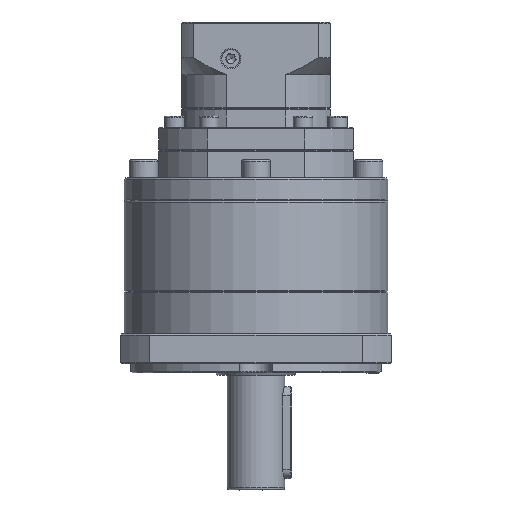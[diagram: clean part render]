
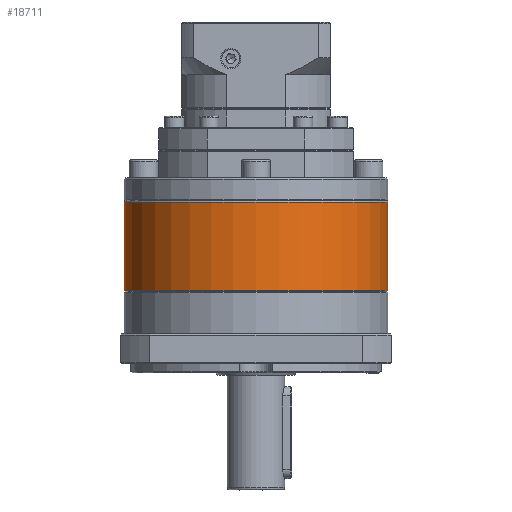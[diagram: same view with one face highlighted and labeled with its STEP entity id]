
A CAD part, front view. The second image highlights one B-rep face of the part: STEP entity #18711.
In plain terms, the highlighted cylindrical face has radius 57.5 mm (diameter 115 mm), a partial arc.
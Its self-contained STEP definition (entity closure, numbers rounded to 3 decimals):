
#3137 = EDGE_CURVE ( 'NONE', #103885, #52895, #40858, .T. ) ;
#9491 = CIRCLE ( 'NONE', #104334, 57.5 ) ;
#15462 = CARTESIAN_POINT ( 'NONE',  ( 67.258, 82.756, -101.558 ) ) ;
#18292 = ORIENTED_EDGE ( 'NONE', *, *, #3137, .T. ) ;
#18711 = ADVANCED_FACE ( 'NONE', ( #61976 ), #106856, .T. ) ;
#24461 = DIRECTION ( 'NONE',  ( -1., 0., 0. ) ) ;
#40858 = CIRCLE ( 'NONE', #63114, 57.5 ) ;
#43077 = CARTESIAN_POINT ( 'NONE',  ( 124.758, 82.756, -101.058 ) ) ;
#47691 = CARTESIAN_POINT ( 'NONE',  ( 67.258, 82.756, -140.27 ) ) ;
#52568 = CARTESIAN_POINT ( 'NONE',  ( 67.258, 82.756, -101.058 ) ) ;
#52895 = VERTEX_POINT ( 'NONE', #115079 ) ;
#54051 = ORIENTED_EDGE ( 'NONE', *, *, #97115, .T. ) ;
#55848 = CARTESIAN_POINT ( 'NONE',  ( 124.758, 82.756, -101.558 ) ) ;
#58272 = DIRECTION ( 'NONE',  ( 0., 0., -1. ) ) ;
#61976 = FACE_OUTER_BOUND ( 'NONE', #90697, .T. ) ;
#63114 = AXIS2_PLACEMENT_3D ( 'NONE', #47691, #79870, #89235 ) ;
#67160 = VECTOR ( 'NONE', #58272, 1000. ) ;
#71638 = LINE ( 'NONE', #43077, #126257 ) ;
#74311 = CARTESIAN_POINT ( 'NONE',  ( 9.758, 82.756, -140.27 ) ) ;
#76328 = DIRECTION ( 'NONE',  ( 0., 0., -1. ) ) ;
#76558 = ORIENTED_EDGE ( 'NONE', *, *, #80497, .T. ) ;
#79870 = DIRECTION ( 'NONE',  ( 0., 0., 1. ) ) ;
#80497 = EDGE_CURVE ( 'NONE', #122214, #103885, #128207, .T. ) ;
#82042 = DIRECTION ( 'NONE',  ( 0., 0., -1. ) ) ;
#83393 = DIRECTION ( 'NONE',  ( 0., 0., -1. ) ) ;
#88281 = AXIS2_PLACEMENT_3D ( 'NONE', #52568, #83393, #106718 ) ;
#89235 = DIRECTION ( 'NONE',  ( -1., 0., 0. ) ) ;
#90697 = EDGE_LOOP ( 'NONE', ( #95519, #54051, #76558, #18292 ) ) ;
#95519 = ORIENTED_EDGE ( 'NONE', *, *, #121642, .F. ) ;
#97115 = EDGE_CURVE ( 'NONE', #100715, #122214, #9491, .T. ) ;
#100715 = VERTEX_POINT ( 'NONE', #55848 ) ;
#103885 = VERTEX_POINT ( 'NONE', #74311 ) ;
#104334 = AXIS2_PLACEMENT_3D ( 'NONE', #15462, #76328, #24461 ) ;
#106718 = DIRECTION ( 'NONE',  ( -1., 0., 0. ) ) ;
#106856 = CYLINDRICAL_SURFACE ( 'NONE', #88281, 57.5 ) ;
#115079 = CARTESIAN_POINT ( 'NONE',  ( 124.758, 82.756, -140.27 ) ) ;
#121642 = EDGE_CURVE ( 'NONE', #100715, #52895, #71638, .T. ) ;
#122214 = VERTEX_POINT ( 'NONE', #125401 ) ;
#125401 = CARTESIAN_POINT ( 'NONE',  ( 9.758, 82.756, -101.558 ) ) ;
#126257 = VECTOR ( 'NONE', #82042, 1000. ) ;
#128207 = LINE ( 'NONE', #129251, #67160 ) ;
#129251 = CARTESIAN_POINT ( 'NONE',  ( 9.758, 82.756, -101.058 ) ) ;
